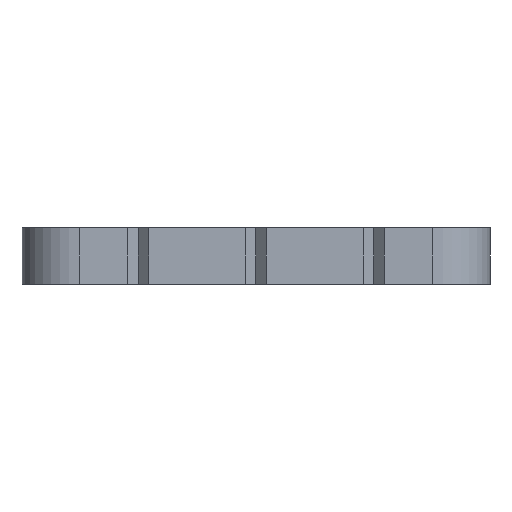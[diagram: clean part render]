
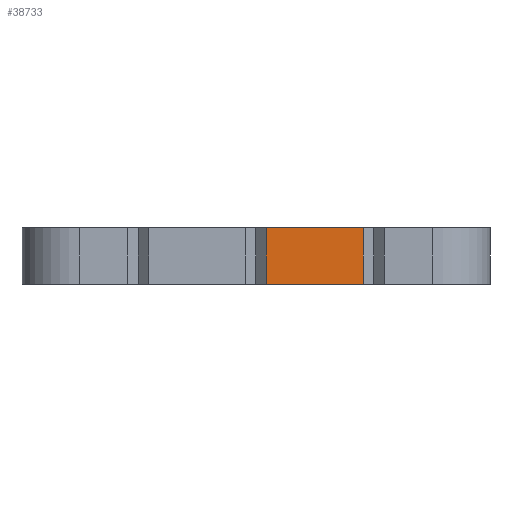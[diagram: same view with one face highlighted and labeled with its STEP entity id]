
A CAD part, left-side view. The second image highlights one B-rep face of the part: STEP entity #38733.
In plain terms, the highlighted planar face has unit normal (-1, 0, 0).
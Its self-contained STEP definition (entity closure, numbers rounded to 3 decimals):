
#1703 = CARTESIAN_POINT ( 'NONE',  ( -50.65, -11.569, 3.05 ) ) ;
#1900 = EDGE_LOOP ( 'NONE', ( #56513, #48077, #28415, #35037 ) ) ;
#1967 = VERTEX_POINT ( 'NONE', #1703 ) ;
#6573 = CARTESIAN_POINT ( 'NONE',  ( -50.65, 19.05, 3.05 ) ) ;
#7821 = DIRECTION ( 'NONE',  ( -1., 0., 0. ) ) ;
#7880 = VERTEX_POINT ( 'NONE', #35535 ) ;
#8106 = FACE_OUTER_BOUND ( 'NONE', #1900, .T. ) ;
#11720 = VECTOR ( 'NONE', #50036, 1000. ) ;
#12317 = EDGE_CURVE ( 'NONE', #35233, #1967, #30680, .T. ) ;
#13401 = LINE ( 'NONE', #36589, #27594 ) ;
#19592 = EDGE_CURVE ( 'NONE', #30149, #1967, #46823, .T. ) ;
#22124 = CARTESIAN_POINT ( 'NONE',  ( -50.65, -11.569, -3.05 ) ) ;
#26619 = DIRECTION ( 'NONE',  ( 0., -1., 0. ) ) ;
#27124 = DIRECTION ( 'NONE',  ( 0., 0., 1. ) ) ;
#27594 = VECTOR ( 'NONE', #32507, 1000. ) ;
#28415 = ORIENTED_EDGE ( 'NONE', *, *, #60805, .F. ) ;
#30149 = VERTEX_POINT ( 'NONE', #52687 ) ;
#30680 = LINE ( 'NONE', #6573, #11720 ) ;
#32507 = DIRECTION ( 'NONE',  ( 0., -1., 0. ) ) ;
#35037 = ORIENTED_EDGE ( 'NONE', *, *, #36890, .T. ) ;
#35233 = VERTEX_POINT ( 'NONE', #51010 ) ;
#35535 = CARTESIAN_POINT ( 'NONE',  ( -50.65, -1.131, -3.05 ) ) ;
#36589 = CARTESIAN_POINT ( 'NONE',  ( -50.65, 19.05, -3.05 ) ) ;
#36608 = PLANE ( 'NONE',  #49277 ) ;
#36890 = EDGE_CURVE ( 'NONE', #7880, #30149, #13401, .T. ) ;
#38733 = ADVANCED_FACE ( 'NONE', ( #8106 ), #36608, .T. ) ;
#43792 = CARTESIAN_POINT ( 'NONE',  ( -50.65, -1.131, -3.05 ) ) ;
#46823 = LINE ( 'NONE', #22124, #50284 ) ;
#47864 = LINE ( 'NONE', #43792, #61387 ) ;
#48077 = ORIENTED_EDGE ( 'NONE', *, *, #12317, .F. ) ;
#49277 = AXIS2_PLACEMENT_3D ( 'NONE', #49755, #7821, #26619 ) ;
#49755 = CARTESIAN_POINT ( 'NONE',  ( -50.65, 19.05, -1. ) ) ;
#50036 = DIRECTION ( 'NONE',  ( 0., -1., 0. ) ) ;
#50284 = VECTOR ( 'NONE', #27124, 1000. ) ;
#51010 = CARTESIAN_POINT ( 'NONE',  ( -50.65, -1.131, 3.05 ) ) ;
#52687 = CARTESIAN_POINT ( 'NONE',  ( -50.65, -11.569, -3.05 ) ) ;
#56513 = ORIENTED_EDGE ( 'NONE', *, *, #19592, .T. ) ;
#58143 = DIRECTION ( 'NONE',  ( 0., 0., 1. ) ) ;
#60805 = EDGE_CURVE ( 'NONE', #7880, #35233, #47864, .T. ) ;
#61387 = VECTOR ( 'NONE', #58143, 1000. ) ;
